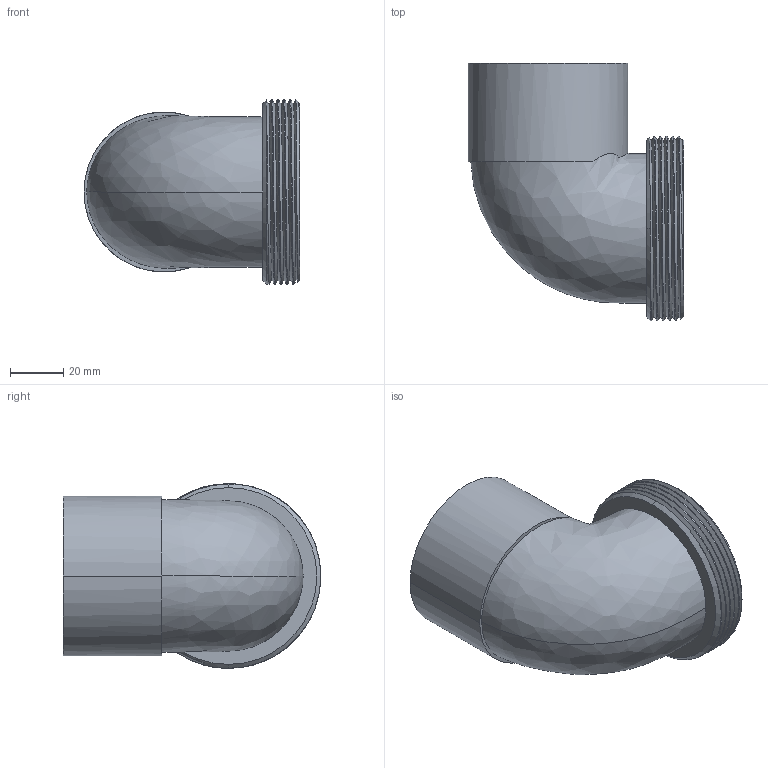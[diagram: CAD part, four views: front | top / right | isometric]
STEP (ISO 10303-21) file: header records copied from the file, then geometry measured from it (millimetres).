
FILE_DESCRIPTION (( 'STEP AP203' ), '1' );
FILE_NAME ('54X238.STEP', '2014-08-26T23:59:55', ( 'Administrators' ), ( 'JUJUMAO' ), 'SwSTEP 2.0', 'SolidWorks 2008', '' );
FILE_SCHEMA (( 'CONFIG_CONTROL_DESIGN' ));
Length unit declared in the file: millimetre
Products named in the file (1): 54X238
Bounding box: 81 x 96.65 x 69.3 mm (x, y, z)
Volume: 60704 mm3; surface area: 40183.8 mm2
Topology: 1 solids, 1 shells, 36 faces, 96 edges, 63 vertices
Faces by surface type: cylinder 15, cone 10, bspline 6, plane 5
Entity records: 4304 total; most frequent: CARTESIAN_POINT 3439, ORIENTED_EDGE 192, DIRECTION 131, EDGE_CURVE 96, VERTEX_POINT 63, AXIS2_PLACEMENT_3D 52, EDGE_LOOP 39, FACE_OUTER_BOUND 36
